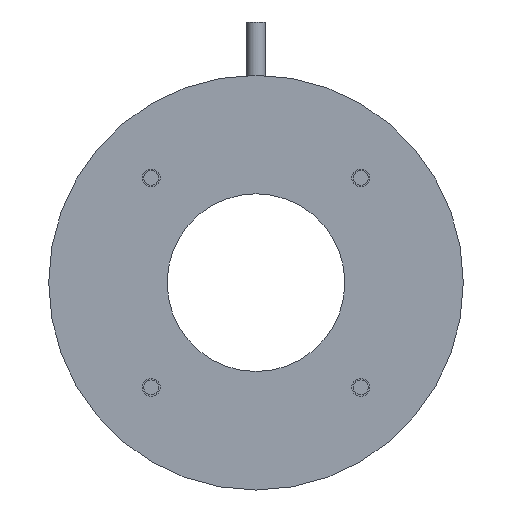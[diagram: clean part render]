
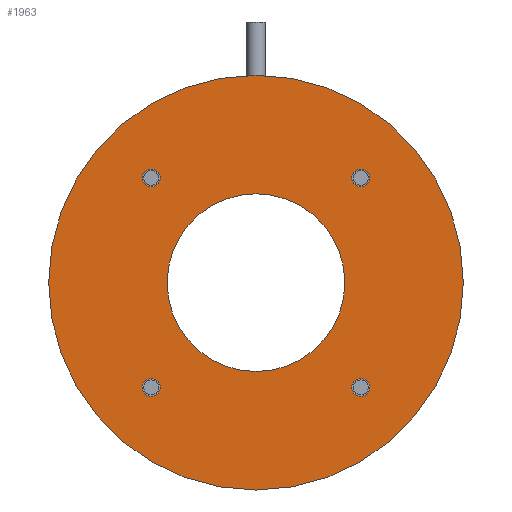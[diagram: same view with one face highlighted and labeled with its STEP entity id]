
A CAD part, front view. The second image highlights one B-rep face of the part: STEP entity #1963.
In plain terms, the highlighted planar face has unit normal (0, -1, 0).
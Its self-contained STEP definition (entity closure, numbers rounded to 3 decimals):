
#35=FACE_BOUND('',#299,.T.);
#36=FACE_BOUND('',#300,.T.);
#37=FACE_BOUND('',#301,.T.);
#38=FACE_BOUND('',#302,.T.);
#39=FACE_BOUND('',#303,.T.);
#101=PLANE('',#2189);
#177=FACE_OUTER_BOUND('',#298,.T.);
#298=EDGE_LOOP('',(#1444));
#299=EDGE_LOOP('',(#1445,#1446));
#300=EDGE_LOOP('',(#1447,#1448));
#301=EDGE_LOOP('',(#1449,#1450));
#302=EDGE_LOOP('',(#1451,#1452));
#303=EDGE_LOOP('',(#1453));
#610=CIRCLE('',#2165,35.);
#628=CIRCLE('',#2190,1.5);
#629=CIRCLE('',#2191,1.5);
#630=CIRCLE('',#2192,1.5);
#631=CIRCLE('',#2193,1.5);
#632=CIRCLE('',#2194,1.5);
#633=CIRCLE('',#2195,1.5);
#634=CIRCLE('',#2196,1.5);
#635=CIRCLE('',#2197,1.5);
#636=CIRCLE('',#2198,15.);
#839=VERTEX_POINT('',#3354);
#857=VERTEX_POINT('',#3400);
#858=VERTEX_POINT('',#3401);
#859=VERTEX_POINT('',#3404);
#860=VERTEX_POINT('',#3405);
#861=VERTEX_POINT('',#3408);
#862=VERTEX_POINT('',#3409);
#863=VERTEX_POINT('',#3412);
#864=VERTEX_POINT('',#3413);
#865=VERTEX_POINT('',#3416);
#1085=EDGE_CURVE('',#839,#839,#610,.T.);
#1106=EDGE_CURVE('',#857,#858,#628,.T.);
#1107=EDGE_CURVE('',#858,#857,#629,.T.);
#1108=EDGE_CURVE('',#859,#860,#630,.T.);
#1109=EDGE_CURVE('',#860,#859,#631,.T.);
#1110=EDGE_CURVE('',#861,#862,#632,.T.);
#1111=EDGE_CURVE('',#862,#861,#633,.T.);
#1112=EDGE_CURVE('',#863,#864,#634,.T.);
#1113=EDGE_CURVE('',#864,#863,#635,.T.);
#1114=EDGE_CURVE('',#865,#865,#636,.T.);
#1444=ORIENTED_EDGE('',*,*,#1085,.T.);
#1445=ORIENTED_EDGE('',*,*,#1106,.F.);
#1446=ORIENTED_EDGE('',*,*,#1107,.F.);
#1447=ORIENTED_EDGE('',*,*,#1108,.F.);
#1448=ORIENTED_EDGE('',*,*,#1109,.F.);
#1449=ORIENTED_EDGE('',*,*,#1110,.F.);
#1450=ORIENTED_EDGE('',*,*,#1111,.F.);
#1451=ORIENTED_EDGE('',*,*,#1112,.F.);
#1452=ORIENTED_EDGE('',*,*,#1113,.F.);
#1453=ORIENTED_EDGE('',*,*,#1114,.F.);
#1963=ADVANCED_FACE('',(#177,#35,#36,#37,#38,#39),#101,.F.);
#2165=AXIS2_PLACEMENT_3D('',#3355,#2623,#2624);
#2189=AXIS2_PLACEMENT_3D('',#3399,#2674,#2675);
#2190=AXIS2_PLACEMENT_3D('',#3402,#2676,#2677);
#2191=AXIS2_PLACEMENT_3D('',#3403,#2678,#2679);
#2192=AXIS2_PLACEMENT_3D('',#3406,#2680,#2681);
#2193=AXIS2_PLACEMENT_3D('',#3407,#2682,#2683);
#2194=AXIS2_PLACEMENT_3D('',#3410,#2684,#2685);
#2195=AXIS2_PLACEMENT_3D('',#3411,#2686,#2687);
#2196=AXIS2_PLACEMENT_3D('',#3414,#2688,#2689);
#2197=AXIS2_PLACEMENT_3D('',#3415,#2690,#2691);
#2198=AXIS2_PLACEMENT_3D('',#3417,#2692,#2693);
#2623=DIRECTION('center_axis',(0.,-1.,0.));
#2624=DIRECTION('ref_axis',(0.,0.,1.));
#2674=DIRECTION('center_axis',(0.,1.,0.));
#2675=DIRECTION('ref_axis',(0.,0.,-1.));
#2676=DIRECTION('center_axis',(0.,-1.,0.));
#2677=DIRECTION('ref_axis',(0.,0.,1.));
#2678=DIRECTION('center_axis',(0.,-1.,0.));
#2679=DIRECTION('ref_axis',(0.,0.,1.));
#2680=DIRECTION('center_axis',(0.,-1.,0.));
#2681=DIRECTION('ref_axis',(0.,0.,1.));
#2682=DIRECTION('center_axis',(0.,-1.,0.));
#2683=DIRECTION('ref_axis',(0.,0.,1.));
#2684=DIRECTION('center_axis',(0.,-1.,0.));
#2685=DIRECTION('ref_axis',(0.,0.,1.));
#2686=DIRECTION('center_axis',(0.,-1.,0.));
#2687=DIRECTION('ref_axis',(0.,0.,1.));
#2688=DIRECTION('center_axis',(0.,-1.,0.));
#2689=DIRECTION('ref_axis',(0.,0.,1.));
#2690=DIRECTION('center_axis',(0.,-1.,0.));
#2691=DIRECTION('ref_axis',(0.,0.,1.));
#2692=DIRECTION('center_axis',(0.,-1.,0.));
#2693=DIRECTION('ref_axis',(0.,0.,1.));
#3354=CARTESIAN_POINT('',(0.,0.,-35.));
#3355=CARTESIAN_POINT('Origin',(0.,0.,0.));
#3399=CARTESIAN_POINT('Origin',(0.,0.,0.));
#3400=CARTESIAN_POINT('',(-17.678,0.,-16.178));
#3401=CARTESIAN_POINT('',(-17.678,0.,-19.178));
#3402=CARTESIAN_POINT('Origin',(-17.678,0.,-17.678));
#3403=CARTESIAN_POINT('Origin',(-17.678,0.,-17.678));
#3404=CARTESIAN_POINT('',(17.678,0.,-16.178));
#3405=CARTESIAN_POINT('',(17.678,0.,-19.178));
#3406=CARTESIAN_POINT('Origin',(17.678,0.,-17.678));
#3407=CARTESIAN_POINT('Origin',(17.678,0.,-17.678));
#3408=CARTESIAN_POINT('',(17.678,0.,19.178));
#3409=CARTESIAN_POINT('',(17.678,0.,16.178));
#3410=CARTESIAN_POINT('Origin',(17.678,0.,17.678));
#3411=CARTESIAN_POINT('Origin',(17.678,0.,17.678));
#3412=CARTESIAN_POINT('',(-17.678,0.,19.178));
#3413=CARTESIAN_POINT('',(-17.678,0.,16.178));
#3414=CARTESIAN_POINT('Origin',(-17.678,0.,17.678));
#3415=CARTESIAN_POINT('Origin',(-17.678,0.,17.678));
#3416=CARTESIAN_POINT('',(0.,0.,-15.));
#3417=CARTESIAN_POINT('Origin',(0.,0.,0.));
